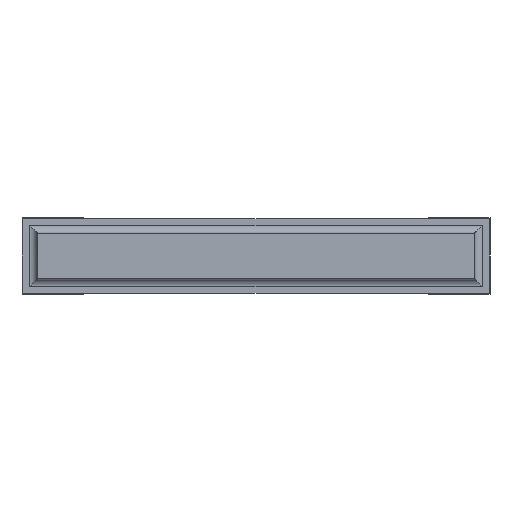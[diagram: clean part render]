
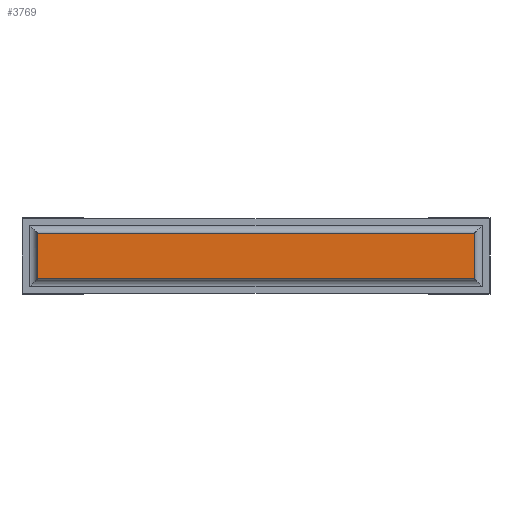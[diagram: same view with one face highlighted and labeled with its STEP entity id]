
A CAD part, front view. The second image highlights one B-rep face of the part: STEP entity #3769.
In plain terms, the highlighted planar face has unit normal (0, -1, 0).
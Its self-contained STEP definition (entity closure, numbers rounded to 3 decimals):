
#55=PLANE('',#4039);
#245=FACE_OUTER_BOUND('',#480,.T.);
#480=EDGE_LOOP('',(#2669,#2670,#2671,#2672));
#720=LINE('',#5381,#1212);
#726=LINE('',#5397,#1218);
#735=LINE('',#5414,#1227);
#736=LINE('',#5416,#1228);
#1212=VECTOR('',#4322,10.);
#1218=VECTOR('',#4336,10.);
#1227=VECTOR('',#4353,10.);
#1228=VECTOR('',#4356,10.);
#1753=VERTEX_POINT('',#5378);
#1754=VERTEX_POINT('',#5380);
#1759=VERTEX_POINT('',#5393);
#1760=VERTEX_POINT('',#5395);
#2098=EDGE_CURVE('',#1754,#1753,#720,.T.);
#2106=EDGE_CURVE('',#1760,#1759,#726,.T.);
#2115=EDGE_CURVE('',#1754,#1760,#735,.T.);
#2116=EDGE_CURVE('',#1759,#1753,#736,.T.);
#2669=ORIENTED_EDGE('',*,*,#2115,.F.);
#2670=ORIENTED_EDGE('',*,*,#2098,.T.);
#2671=ORIENTED_EDGE('',*,*,#2116,.F.);
#2672=ORIENTED_EDGE('',*,*,#2106,.F.);
#3769=ADVANCED_FACE('',(#245),#55,.T.);
#4039=AXIS2_PLACEMENT_3D('',#5415,#4354,#4355);
#4322=DIRECTION('',(0.,0.,-1.));
#4336=DIRECTION('',(0.,0.,-1.));
#4353=DIRECTION('',(1.,0.,0.));
#4354=DIRECTION('center_axis',(0.,-1.,0.));
#4355=DIRECTION('ref_axis',(0.,0.,-1.));
#4356=DIRECTION('',(-1.,0.,0.));
#5378=CARTESIAN_POINT('',(0.1,0.,0.1));
#5380=CARTESIAN_POINT('',(0.1,0.,0.4));
#5381=CARTESIAN_POINT('',(0.1,0.,0.4));
#5393=CARTESIAN_POINT('',(2.96,0.,0.1));
#5395=CARTESIAN_POINT('',(2.96,0.,0.4));
#5397=CARTESIAN_POINT('',(2.96,0.,0.4));
#5414=CARTESIAN_POINT('',(0.1,0.,0.4));
#5415=CARTESIAN_POINT('Origin',(2.96,0.,0.25));
#5416=CARTESIAN_POINT('',(2.96,0.,0.1));
